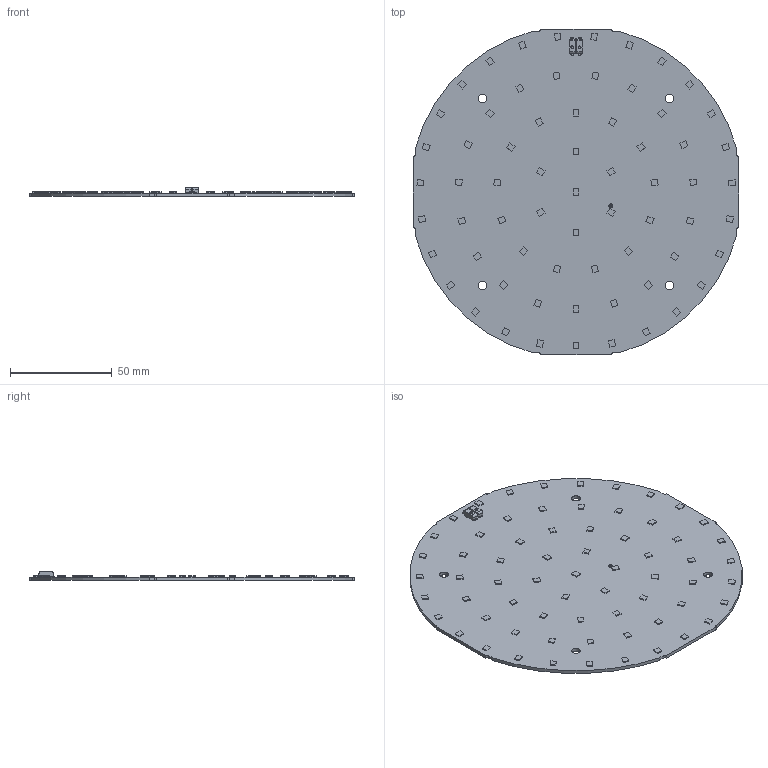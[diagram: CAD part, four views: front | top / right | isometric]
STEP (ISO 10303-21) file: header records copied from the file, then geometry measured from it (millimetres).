
FILE_DESCRIPTION((''),'2;1');
FILE_NAME('16208822_CLE-SHALLOW-G2-D160','2019-01-25T08:46:47',('bernhard.fink'),(''),'CREO PARAMETRIC BY PTC INC, 2017380','CREO PARAMETRIC BY PTC INC, 2017380','');
FILE_SCHEMA(('AUTOMOTIVE_DESIGN { 1 0 10303 214 1 1 1 1 }'));
Length unit declared in the file: millimetre
Products named in the file (1): 16208822_CLE-SHALLOW-G2-D160
Bounding box: 160.5 x 160.5 x 4.35 mm (x, y, z)
Volume: 34880 mm3; surface area: 44571.1 mm2
Topology: 67 solids, 71 shells, 549 faces, 1222 edges, 824 vertices
Faces by surface type: plane 481, cylinder 64, torus 4
Entity records: 23486 total; most frequent: CARTESIAN_POINT 2817, ORIENTED_EDGE 2444, DIRECTION 2406, PRESENTATION_STYLE_ASSIGNMENT 1826, STYLED_ITEM 1293, CURVE_STYLE 1222, EDGE_CURVE 1222, VECTOR 1062
